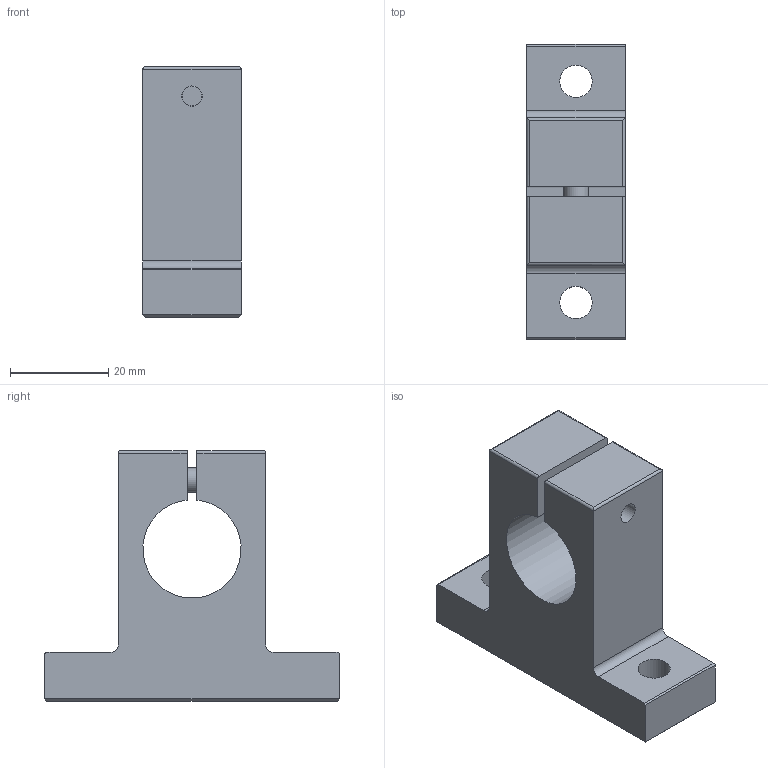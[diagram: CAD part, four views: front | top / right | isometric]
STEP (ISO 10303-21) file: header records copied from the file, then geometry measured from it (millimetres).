
FILE_DESCRIPTION((''),'2;1');
FILE_NAME('D:\製品 (図面)\カタログ用3D\シャフトブロック関連\STEP形式\SBA\SBA20.stp','2010-06-01T16:22:23',('Tsuchiya'),(''),'Autodesk Inventor 10','Autodesk Inventor 10','');
FILE_SCHEMA(('AUTOMOTIVE_DESIGN { 1 0 10303 214 1 1 1 1 }'));
Length unit declared in the file: millimetre
Products named in the file (1): SBA20
Bounding box: 20 x 60 x 51 mm (x, y, z)
Volume: 29020 mm3; surface area: 9853.9 mm2
Topology: 1 solids, 1 shells, 48 faces, 119 edges, 77 vertices
Faces by surface type: plane 27, cylinder 14, bspline 4, cone 2, torus 1
Full cylindrical faces by diameter (mm): 5 x1, 6.6 x2, 8.5 x1
Entity records: 1392 total; most frequent: CARTESIAN_POINT 291, DIRECTION 220, ORIENTED_EDGE 208, EDGE_CURVE 104, AXIS2_PLACEMENT_3D 77, VERTEX_POINT 72, EDGE_LOOP 68, VECTOR 66
